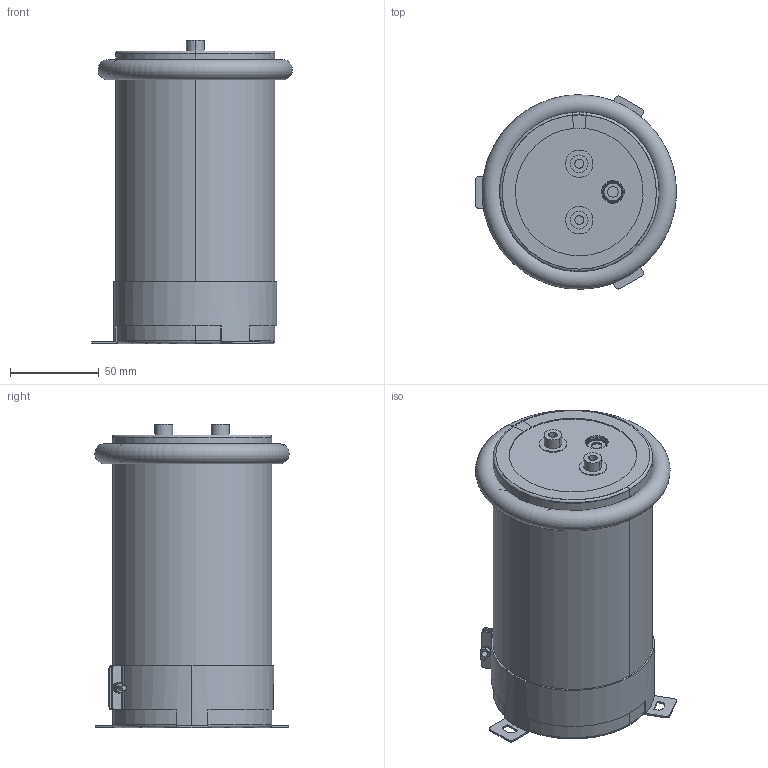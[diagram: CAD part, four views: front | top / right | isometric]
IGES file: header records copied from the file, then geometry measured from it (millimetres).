
Start section: 3D InterOp IGES (v. 2019 1.0.2), Spatial Corp. Copyright (c) 1999-2017.
Global section: file name: 90x165_Screw.igs; native system: Spatial Corp.; preprocessor: 3D InterOp ACIS/IGES; author: Noname; organization: Noname; date: 20220314.175452; units: millimetre
Bounding box: 113.34 x 109.67 x 171 mm (x, y, z)
Volume: 1394372.3 mm3; surface area: 319962.7 mm2
Topology: 9 solids, 9 shells, 352 faces, 953 edges, 591 vertices
Faces by surface type: plane 112, cylinder 110, torus 90, cone 38, sphere 2
